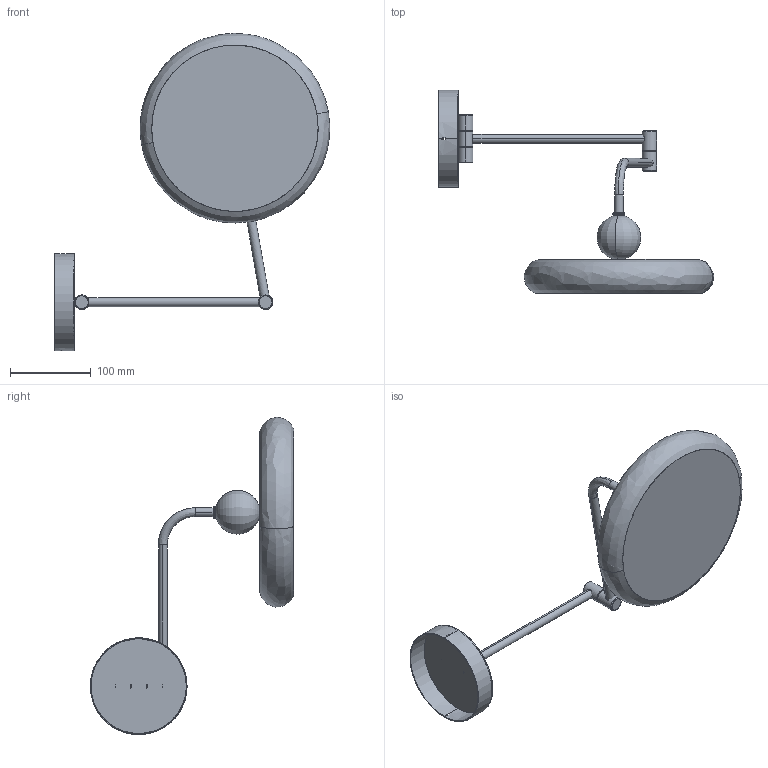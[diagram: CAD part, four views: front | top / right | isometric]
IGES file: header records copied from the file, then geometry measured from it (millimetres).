
Start section: SolidWorks IGES file using analytic representation for surfaces
Global section: file name: F:\燠隴矨\3D\2026-3\Karlin Wall Light.IGS,15; native system: HSolidWorks 2022; preprocessor: SolidWorks 2022; author: MyPC; date: 260306.081239; units: millimetre
Bounding box: 341.47 x 252.14 x 393.19 mm (x, y, z)
Surface area: 179288.5 mm2 (no closed solid volume)
Topology: 0 solids, 0 shells, 76 faces, 1124 edges, 1122 vertices
Faces by surface type: revolution 38, bspline 38
